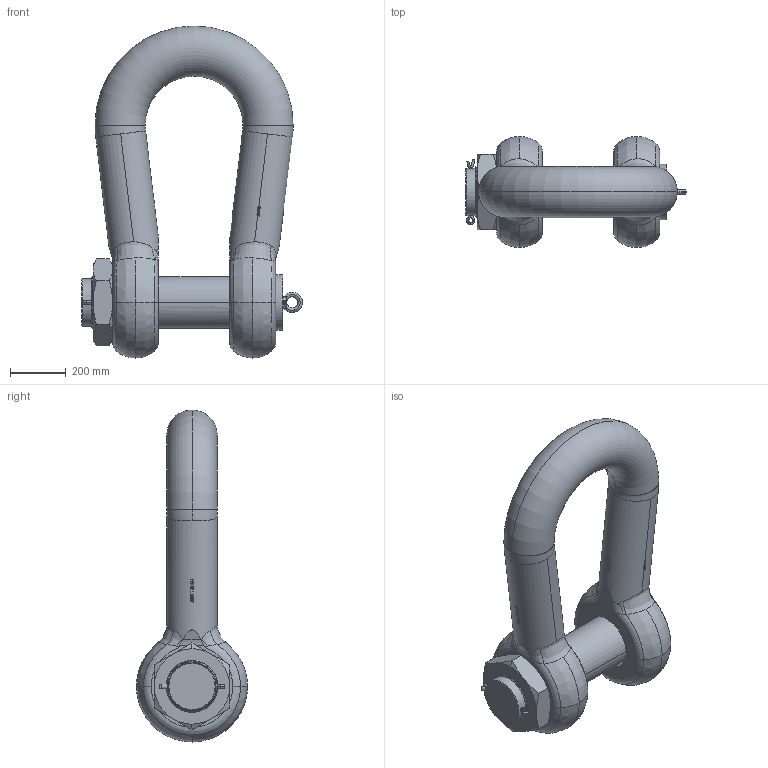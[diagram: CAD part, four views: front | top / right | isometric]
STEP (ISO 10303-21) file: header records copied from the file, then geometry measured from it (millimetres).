
FILE_DESCRIPTION(('STEP AP214'),'1');
FILE_NAME('hdgphm0500.stp','2017-06-30T09:24:25',('TraceParts'),('TraceParts S.A.'),'Spatial InterOp 3D',' ',' ');
FILE_SCHEMA(('automotive_design'));
Length unit declared in the file: millimetre
Products named in the file (5): HDGPHM0500|HDGPHM0500_1#HDGPHM0500_1;MANIFOLD_SOLID_BREP #20848; HDGPHM0500|HDGPHM0500_1#HDGPHM0500_2;MANIFOLD_SOLID_BREP #39213; hdgphm0500_3; hdgphm0500_4; hdgphm0500_5
Bounding box: 791 x 398 x 1189.49 mm (x, y, z)
Volume: 92396574.6 mm3; surface area: 2538176.6 mm2
Topology: 5 solids, 5 shells, 1273 faces, 5122 edges, 3908 vertices
Faces by surface type: bspline 488, plane 392, cylinder 331, torus 36, cone 26
Entity records: 102362 total; most frequent: CARTESIAN_POINT 57761, ORIENTED_EDGE 10240, EDGE_CURVE 5120, VERTEX_POINT 3908, B_SPLINE_CURVE_WITH_KNOTS 3883, DIRECTION 2866, EDGE_LOOP 1334, STYLED_ITEM 1278
